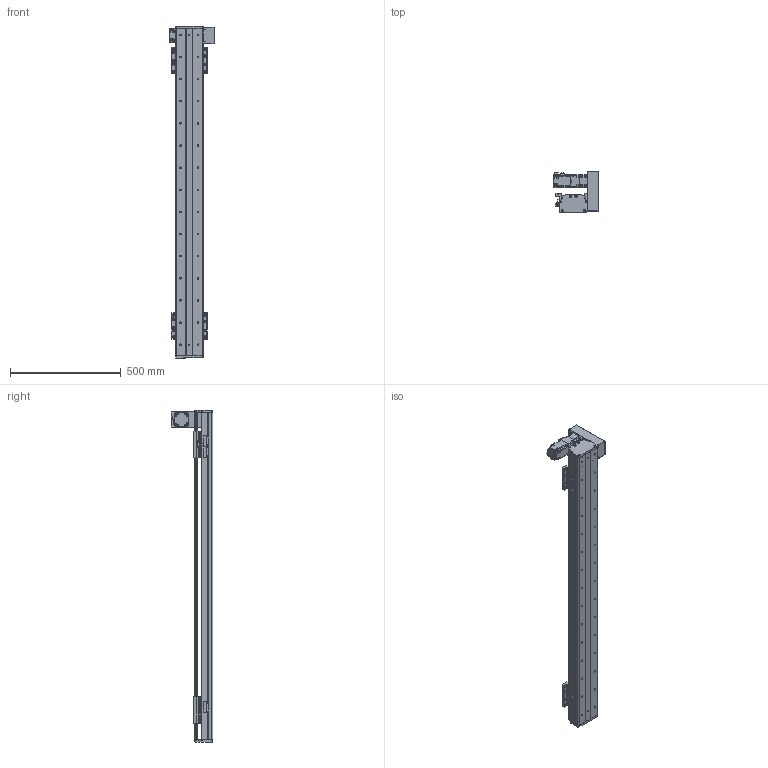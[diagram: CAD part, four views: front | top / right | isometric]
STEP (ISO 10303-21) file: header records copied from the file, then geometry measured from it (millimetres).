
FILE_DESCRIPTION(/* description */ (''),/* implementation_level */ '2;1');
FILE_NAME(/* name */ 'C:\Users\PC\Desktop\3D도면\STEP\DSB125-UR2G-W1200-L.stp',/* time_stamp */ '2018-06-19T16:56:52+09:00',/* author */ ('PC'),/* organization */ (''),/* preprocessor_version */ 'ST-DEVELOPER v16.5',/* originating_system */ 'Autodesk Inventor 2017',/* authorisation */ '');
FILE_SCHEMA (('AUTOMOTIVE_DESIGN { 1 0 10303 214 3 1 1 }'));
Length unit declared in the file: millimetre
Products named in the file (12): DSB125-UL2G-W1200-R_MIR; DSB125-BASE_MIR; DSB125-UP COVER_MIR; DSB125-FRONT COVER_MIR; DSB125-REAR COVER_MIR; hg-kr23__MIR; ab0601-p0401200402_MIR; 13-BELT COVER_MIR; DSR125-SENSOR DOG_MIR; SENSOR BRACKET(EE-SX674A)_MIR; pm-y65_step_MIR; DSB125-TABLE(MSB15S)_MIR
Assembly tree (16 placements, depth 2):
  DSB125-UL2G-W1200-R_MIR
    DSB125-BASE_MIR
    DSB125-UP COVER_MIR
    DSB125-FRONT COVER_MIR
    DSB125-REAR COVER_MIR
    hg-kr23__MIR
    ab0601-p0401200402_MIR
    13-BELT COVER_MIR
    DSR125-SENSOR DOG_MIR
    SENSOR BRACKET(EE-SX674A)_MIR  x3
    pm-y65_step_MIR  x3
    DSB125-TABLE(MSB15S)_MIR  x2
Bounding box: 202.1 x 187 x 1500 mm (x, y, z)
Volume: 5380499 mm3; surface area: 1548750.3 mm2
Topology: 17 solids, 17 shells, 1671 faces, 4530 edges, 2984 vertices
Faces by surface type: plane 903, cylinder 636, cone 120, sphere 8, torus 4
Full cylindrical faces by diameter (mm): 2.459 x20, 3.242 x16, 3.5 x6, 4 x1, 4.134 x16, 4.2 x4, 4.3 x1, 4.5 x50, 4.917 x20, 5 x22, 5.3 x1, 5.5 x4, 5.6 x8, 5.8 x4, 5.9 x8, 6 x4, 6.6 x22, 6.647 x30, 7.5 x32, 8.5 x8, 8.7 x1, 11 x22, 14 x1, 16 x2, 17 x1, 20 x1, 47 x1, 50 x3
Entity records: 36221 total; most frequent: CARTESIAN_POINT 6519, DIRECTION 6154, ORIENTED_EDGE 5498, EDGE_CURVE 2749, AXIS2_PLACEMENT_3D 2265, VERTEX_POINT 1958, EDGE_LOOP 1693, LINE 1624
